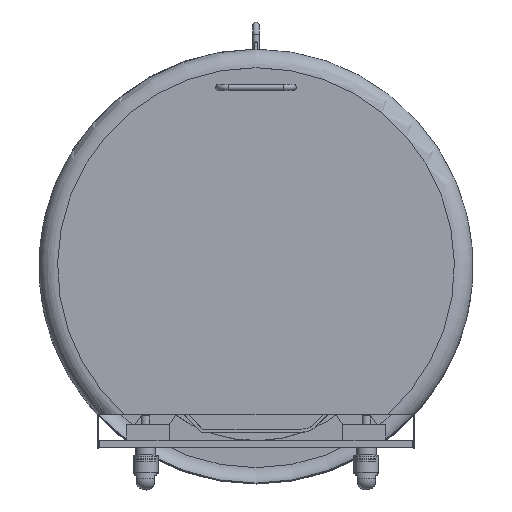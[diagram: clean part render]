
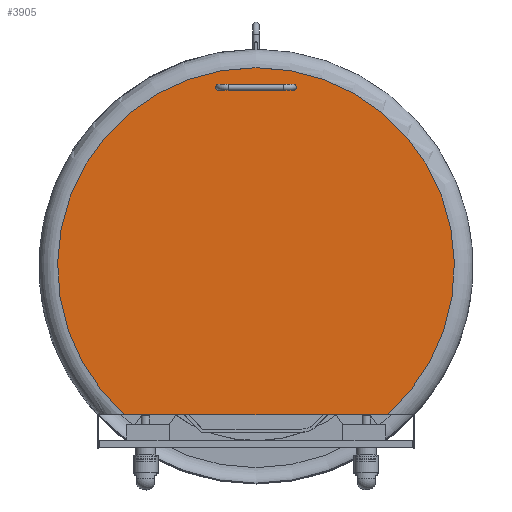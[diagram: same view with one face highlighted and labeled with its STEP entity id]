
A CAD part, top view. The second image highlights one B-rep face of the part: STEP entity #3905.
In plain terms, the highlighted planar face has unit normal (0, 0, 1).
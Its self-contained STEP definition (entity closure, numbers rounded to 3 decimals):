
#2954=CARTESIAN_POINT('',(-65.,343.5,1203.));
#2955=VERTEX_POINT('',#2954);
#2956=CARTESIAN_POINT('',(-60.,343.5,1203.));
#2957=DIRECTION('',(0.0,0.0,-1.0));
#2958=DIRECTION('',(1.0,0.0,0.0));
#2959=AXIS2_PLACEMENT_3D('',#2956,#2957,#2958);
#2960=CIRCLE('',#2959,5.0);
#2961=EDGE_CURVE('',#2955,#2955,#2960,.T.);
#3045=CARTESIAN_POINT('',(65.,343.5,1203.));
#3046=VERTEX_POINT('',#3045);
#3047=CARTESIAN_POINT('',(60.,343.5,1203.));
#3048=DIRECTION('',(0.0,0.0,-1.0));
#3049=DIRECTION('',(-1.0,0.0,0.0));
#3050=AXIS2_PLACEMENT_3D('',#3047,#3048,#3049);
#3051=CIRCLE('',#3050,5.0);
#3052=EDGE_CURVE('',#3046,#3046,#3051,.T.);
#3416=CARTESIAN_POINT('',(211.66,-185.,1203.));
#3417=VERTEX_POINT('',#3416);
#3439=CARTESIAN_POINT('',(-211.66,-185.,1203.));
#3440=VERTEX_POINT('',#3439);
#3441=CARTESIAN_POINT('',(-211.66,-185.,1203.));
#3442=DIRECTION('',(1.0,0.0,0.0));
#3443=VECTOR('',#3442,423.32);
#3444=LINE('',#3441,#3443);
#3445=EDGE_CURVE('',#3440,#3417,#3444,.T.);
#3884=CARTESIAN_POINT('',(0.,215.,1203.));
#3885=DIRECTION('',(0.0,0.0,1.0));
#3886=DIRECTION('',(1.0,0.0,0.0));
#3887=AXIS2_PLACEMENT_3D('',#3884,#3885,#3886);
#3888=PLANE('',#3887);
#3889=ORIENTED_EDGE('',*,*,#3445,.T.);
#3890=CARTESIAN_POINT('',(0.,55.,1203.));
#3891=DIRECTION('',(0.0,0.0,-1.0));
#3892=DIRECTION('',(0.0,1.0,0.0));
#3893=AXIS2_PLACEMENT_3D('',#3890,#3891,#3892);
#3894=CIRCLE('',#3893,320.0);
#3895=EDGE_CURVE('',#3440,#3417,#3894,.T.);
#3896=ORIENTED_EDGE('',*,*,#3895,.F.);
#3897=EDGE_LOOP('',(#3889,#3896));
#3898=FACE_OUTER_BOUND('',#3897,.T.);
#3899=ORIENTED_EDGE('',*,*,#2961,.T.);
#3900=EDGE_LOOP('',(#3899));
#3901=FACE_BOUND('',#3900,.T.);
#3902=ORIENTED_EDGE('',*,*,#3052,.T.);
#3903=EDGE_LOOP('',(#3902));
#3904=FACE_BOUND('',#3903,.T.);
#3905=ADVANCED_FACE('',(#3898,#3901,#3904),#3888,.T.);
